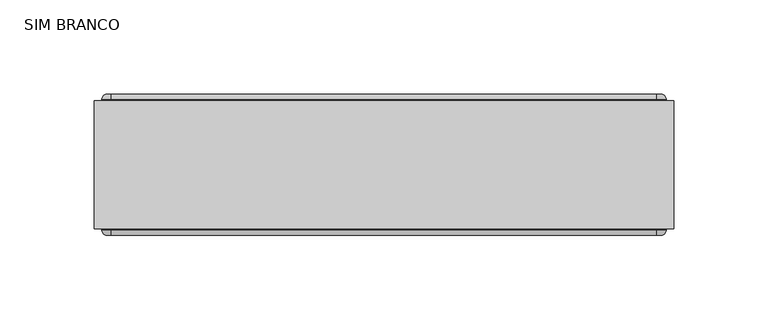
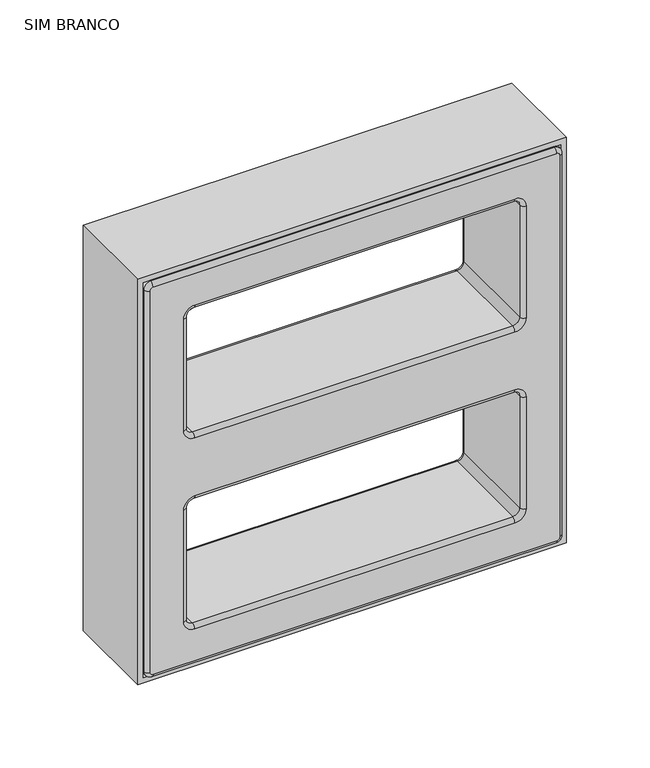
"""IFC4 building model written with IfcOpenShell, lengths in millimetres: proxy geometry, PORTOBELLO - ELEMENTO SIM BRANCO 30X30 (COBOGO) : SIM BRANCO."""

from ifc_helpers import new_model, si_unit, point, frame, origin, place, context, project, spatial, polyline, circle_curve, ellipse_curve, trimmed, outline, extrude, source, transform, mapped, element, save
from ifc_brep_helpers import plane_surface, cylinder_surface, revolved_surface, advanced_brep


def sim_branco_d7bac734(model_context):
    return source(origin(), model_context, "Body", "SolidModel", [
        advanced_brep(
        [(147.0, -37.5, 299.0), (145.0, -37.5, 301.0), (-145.0, -37.5, 301.0), (-147.0, -37.5, 299.0), (-147.0, -37.5, 9.0), (-145.0, -37.5, 7.0), (145.0, -37.5, 7.0), (147.0, -37.5, 9.0), (115.0, -37.5, 277.0), (123.0, -37.5, 269.0), (123.0, -37.5, 184.0), (115.0, -37.5, 176.0), (-115.0, -37.5, 176.0), (-123.0, -37.5, 184.0), (-123.0, -37.5, 269.0), (-115.0, -37.5, 277.0), (115.0, -37.5, 132.0), (123.0, -37.5, 124.0), (123.0, -37.5, 39.0), (115.0, -37.5, 31.0), (-115.0, -37.5, 31.0), (-123.0, -37.5, 39.0), (-123.0, -37.5, 124.0), (-115.0, -37.5, 132.0), (145.0, 37.5, 301.0), (147.0, 37.5, 299.0), (147.0, 37.5, 9.0), (145.0, 37.5, 7.0), (-145.0, 37.5, 7.0), (-147.0, 37.5, 9.0), (-147.0, 37.5, 299.0), (-145.0, 37.5, 301.0), (123.0, 37.5, 269.0), (115.0, 37.5, 277.0), (-115.0, 37.5, 277.0), (-123.0, 37.5, 269.0), (-123.0, 37.5, 184.0), (-115.0, 37.5, 176.0), (115.0, 37.5, 176.0), (123.0, 37.5, 184.0), (123.0, 37.5, 124.0), (115.0, 37.5, 132.0), (-115.0, 37.5, 132.0), (-123.0, 37.5, 124.0), (-123.0, 37.5, 39.0), (-115.0, 37.5, 31.0), (115.0, 37.5, 31.0), (123.0, 37.5, 39.0), (150.0, -34.5000013, 299.0), (150.0, 34.5, 299.0), (145.0, 34.5, 304.0), (145.0, -34.5000024, 304.0), (-145.0, 34.5, 304.0), (-145.0, -34.5, 304.0), (-150.0, 34.5, 299.0), (-150.0, -34.5000025, 299.0), (-150.0, 34.5, 9.0), (-150.0, -34.5, 9.0), (-145.0, 34.5, 4.0), (-145.0, -34.5000024, 4.0), (145.0, 34.5, 4.0), (145.0, -34.5, 4.0), (150.0, 34.5, 9.0), (150.0, -34.5000024, 9.0), (-115.0, -34.5000025, 274.0), (-115.0, 34.5, 274.0), (115.0, 34.5, 274.0), (115.0, -34.5000016, 274.0), (120.0, 34.5, 269.0), (120.0, -34.5000016, 269.0), (120.0, 34.5, 184.0), (120.0, -34.5, 184.0), (115.0, 34.5, 179.0), (115.0, -34.5000016, 179.0), (-115.0, 34.5, 179.0), (-115.0, -34.5, 179.0), (-120.0, 34.5, 184.0), (-120.0, -34.5000017, 184.0), (-120.0, 34.5, 269.0), (-120.0, -34.5, 269.0), (115.0, -34.5000026, 34.0), (115.0, 34.5, 34.0), (-115.0, 34.5, 34.0), (-115.0, -34.5, 34.0), (-120.0, 34.5, 39.0), (-120.0, -34.5000016, 39.0), (-120.0, 34.5, 124.0), (-120.0, -34.5, 124.0), (-115.0, 34.5, 129.0), (-115.0, -34.5000016, 129.0), (115.0, 34.5, 129.0), (115.0, -34.5000016, 129.0), (120.0, 34.5, 124.0), (120.0, -34.5000015, 124.0), (120.0, 34.5, 39.0), (120.0, -34.5, 39.0)],
        [
            (0, 1, circle_curve(frame((145.0, -37.5, 299.0), z_axis=(0.0, -1.0, 0.0), x_axis=(1.0, 0.0, 0.0)), 2.0)),
            (1, 2),
            (2, 3, circle_curve(frame((-145.0, -37.5, 299.0), z_axis=(0.0, -1.0, 0.0), x_axis=(0.0, 0.0, 1.0)), 2.0)),
            (3, 4),
            (4, 5, circle_curve(frame((-145.0, -37.5, 9.0), z_axis=(0.0, -1.0, 0.0), x_axis=(-1.0, 0.0, 0.0)), 2.0)),
            (5, 6),
            (6, 7, circle_curve(frame((145.0, -37.5, 9.0), z_axis=(0.0, -1.0, 0.0), x_axis=(0.0, 0.0, -1.0)), 2.0)),
            (7, 0),
            (8, 9, circle_curve(frame((115.0, -37.5, 269.0), z_axis=(0.0, 1.0, 0.0), x_axis=(0.0, 0.0, 1.0)), 8.0)),
            (9, 10),
            (10, 11, circle_curve(frame((115.0, -37.5, 184.0), z_axis=(0.0, 1.0, 0.0), x_axis=(1.0, 0.0, 0.0)), 8.0)),
            (11, 12),
            (12, 13, circle_curve(frame((-115.0, -37.5, 184.0), z_axis=(0.0, 1.0, 0.0), x_axis=(0.0, 0.0, -1.0)), 8.0)),
            (13, 14),
            (14, 15, circle_curve(frame((-115.0, -37.5, 269.0), z_axis=(0.0, 1.0, 0.0), x_axis=(-1.0, 0.0, 0.0)), 8.0)),
            (15, 8),
            (16, 17, circle_curve(frame((115.0, -37.5, 124.0), z_axis=(0.0, 1.0, 0.0), x_axis=(0.0, 0.0, 1.0)), 8.0)),
            (17, 18),
            (18, 19, circle_curve(frame((115.0, -37.5, 39.0), z_axis=(0.0, 1.0, 0.0), x_axis=(1.0, 0.0, 0.0)), 8.0)),
            (19, 20),
            (20, 21, circle_curve(frame((-115.0, -37.5, 39.0), z_axis=(0.0, 1.0, 0.0), x_axis=(0.0, 0.0, -1.0)), 8.0)),
            (21, 22),
            (22, 23, circle_curve(frame((-115.0, -37.5, 124.0), z_axis=(0.0, 1.0, 0.0), x_axis=(-1.0, 0.0, 0.0)), 8.0)),
            (23, 16),
            (24, 25, circle_curve(frame((145.0, 37.5, 299.0), z_axis=(0.0, 1.0, 0.0), x_axis=(1.0, 0.0, 0.0)), 2.0)),
            (25, 26),
            (26, 27, circle_curve(frame((145.0, 37.5, 9.0), z_axis=(0.0, 1.0, 0.0), x_axis=(0.0, 0.0, -1.0)), 2.0)),
            (27, 28),
            (28, 29, circle_curve(frame((-145.0, 37.5, 9.0), z_axis=(0.0, 1.0, 0.0), x_axis=(-1.0, 0.0, 0.0)), 2.0)),
            (29, 30),
            (30, 31, circle_curve(frame((-145.0, 37.5, 299.0), z_axis=(0.0, 1.0, 0.0), x_axis=(0.0, 0.0, 1.0)), 2.0)),
            (31, 24),
            (32, 33, circle_curve(frame((115.0, 37.5, 269.0), z_axis=(0.0, -1.0, 0.0), x_axis=(0.0, 0.0, 1.0)), 8.0)),
            (33, 34),
            (34, 35, circle_curve(frame((-115.0, 37.5, 269.0), z_axis=(0.0, -1.0, 0.0), x_axis=(-1.0, 0.0, 0.0)), 8.0)),
            (35, 36),
            (36, 37, circle_curve(frame((-115.0, 37.5, 184.0), z_axis=(0.0, -1.0, 0.0), x_axis=(0.0, 0.0, -1.0)), 8.0)),
            (37, 38),
            (38, 39, circle_curve(frame((115.0, 37.5, 184.0), z_axis=(0.0, -1.0, 0.0), x_axis=(1.0, 0.0, 0.0)), 8.0)),
            (39, 32),
            (40, 41, circle_curve(frame((115.0, 37.5, 124.0), z_axis=(0.0, -1.0, 0.0), x_axis=(0.0, 0.0, 1.0)), 8.0)),
            (41, 42),
            (42, 43, circle_curve(frame((-115.0, 37.5, 124.0), z_axis=(0.0, -1.0, 0.0), x_axis=(-1.0, 0.0, 0.0)), 8.0)),
            (43, 44),
            (44, 45, circle_curve(frame((-115.0, 37.5, 39.0), z_axis=(0.0, -1.0, 0.0), x_axis=(0.0, 0.0, -1.0)), 8.0)),
            (45, 46),
            (46, 47, circle_curve(frame((115.0, 37.5, 39.0), z_axis=(0.0, -1.0, 0.0), x_axis=(1.0, 0.0, 0.0)), 8.0)),
            (47, 40),
            (48, 49),
            (49, 50, circle_curve(frame((145.0, 34.5, 299.0), z_axis=(0.0, -1.0, 0.0), x_axis=(0.0, 0.0, -1.0)), 5.0)),
            (50, 51),
            (51, 48, circle_curve(frame((145.0, -34.5, 299.0), z_axis=(0.0, 1.0, 0.0), x_axis=(0.0, 0.0, -1.0)), 5.0)),
            (50, 52),
            (52, 53),
            (53, 51),
            (52, 54, circle_curve(frame((-145.0, 34.5, 299.0), z_axis=(0.0, -1.0, 0.0), x_axis=(0.0, 0.0, -1.0)), 5.0)),
            (54, 55),
            (55, 53, circle_curve(frame((-145.0, -34.5, 299.0), z_axis=(0.0, 1.0, 0.0), x_axis=(0.0, 0.0, -1.0)), 5.0)),
            (54, 56),
            (56, 57),
            (57, 55),
            (56, 58, circle_curve(frame((-145.0, 34.5, 9.0), z_axis=(0.0, -1.0, 0.0), x_axis=(0.0, 0.0, -1.0)), 5.0)),
            (58, 59),
            (59, 57, circle_curve(frame((-145.0, -34.5, 9.0), z_axis=(0.0, 1.0, 0.0), x_axis=(0.0, 0.0, -1.0)), 5.0)),
            (58, 60),
            (60, 61),
            (61, 59),
            (60, 62, circle_curve(frame((145.0, 34.5, 9.0), z_axis=(0.0, -1.0, 0.0), x_axis=(0.0, 0.0, -1.0)), 5.0)),
            (62, 63),
            (63, 61, circle_curve(frame((145.0, -34.5, 9.0), z_axis=(0.0, 1.0, 0.0), x_axis=(0.0, 0.0, -1.0)), 5.0)),
            (48, 63),
            (62, 49),
            (64, 65),
            (65, 66),
            (66, 67),
            (67, 64),
            (66, 68, circle_curve(frame((115.0, 34.5, 269.0), z_axis=(0.0, 1.0, 0.0), x_axis=(0.0, 0.0, -1.0)), 5.0)),
            (68, 69),
            (69, 67, circle_curve(frame((115.0, -34.5, 269.0), z_axis=(0.0, -1.0, 0.0), x_axis=(0.0, 0.0, -1.0)), 5.0)),
            (68, 70),
            (70, 71),
            (71, 69),
            (70, 72, circle_curve(frame((115.0, 34.5, 184.0), z_axis=(0.0, 1.0, 0.0), x_axis=(0.0, 0.0, -1.0)), 5.0)),
            (72, 73),
            (73, 71, circle_curve(frame((115.0, -34.5, 184.0), z_axis=(0.0, -1.0, 0.0), x_axis=(0.0, 0.0, -1.0)), 5.0)),
            (72, 74),
            (74, 75),
            (75, 73),
            (74, 76, circle_curve(frame((-115.0, 34.5, 184.0), z_axis=(0.0, 1.0, 0.0), x_axis=(0.0, 0.0, -1.0)), 5.0)),
            (76, 77),
            (77, 75, circle_curve(frame((-115.0, -34.5, 184.0), z_axis=(0.0, -1.0, 0.0), x_axis=(0.0, 0.0, -1.0)), 5.0)),
            (76, 78),
            (78, 79),
            (79, 77),
            (64, 79, circle_curve(frame((-115.0, -34.5, 269.0), z_axis=(0.0, -1.0, 0.0), x_axis=(0.0, 0.0, -1.0)), 5.0)),
            (78, 65, circle_curve(frame((-115.0, 34.5, 269.0), z_axis=(0.0, 1.0, 0.0), x_axis=(0.0, 0.0, -1.0)), 5.0)),
            (80, 81),
            (81, 82),
            (82, 83),
            (83, 80),
            (82, 84, circle_curve(frame((-115.0, 34.5, 39.0), z_axis=(0.0, 1.0, 0.0), x_axis=(0.0, 0.0, -1.0)), 5.0)),
            (84, 85),
            (85, 83, circle_curve(frame((-115.0, -34.5, 39.0), z_axis=(0.0, -1.0, 0.0), x_axis=(0.0, 0.0, -1.0)), 5.0)),
            (84, 86),
            (86, 87),
            (87, 85),
            (86, 88, circle_curve(frame((-115.0, 34.5, 124.0), z_axis=(0.0, 1.0, 0.0), x_axis=(0.0, 0.0, -1.0)), 5.0)),
            (88, 89),
            (89, 87, circle_curve(frame((-115.0, -34.5, 124.0), z_axis=(0.0, -1.0, 0.0), x_axis=(0.0, 0.0, -1.0)), 5.0)),
            (88, 90),
            (90, 91),
            (91, 89),
            (90, 92, circle_curve(frame((115.0, 34.5, 124.0), z_axis=(0.0, 1.0, 0.0), x_axis=(0.0, 0.0, -1.0)), 5.0)),
            (92, 93),
            (93, 91, circle_curve(frame((115.0, -34.5, 124.0), z_axis=(0.0, -1.0, 0.0), x_axis=(0.0, 0.0, -1.0)), 5.0)),
            (92, 94),
            (94, 95),
            (95, 93),
            (80, 95, circle_curve(frame((115.0, -34.5, 39.0), z_axis=(0.0, -1.0, 0.0), x_axis=(0.0, 0.0, -1.0)), 5.0)),
            (94, 81, circle_curve(frame((115.0, 34.5, 39.0), z_axis=(0.0, 1.0, 0.0), x_axis=(0.0, 0.0, -1.0)), 5.0)),
            (51, 1, circle_curve(frame((145.0, -34.5, 301.0), z_axis=(1.0, 0.0, 0.0), x_axis=(0.0, -1.0, 0.0)), 3.0)),
            (0, 48, circle_curve(frame((147.0, -34.5, 299.0), z_axis=(0.0, 0.0, 1.0), x_axis=(0.0, -1.0, 0.0)), 3.0)),
            (53, 2, circle_curve(frame((-145.0, -34.5, 301.0), z_axis=(1.0, 0.0, 0.0), x_axis=(0.0, -1.0, 0.0)), 3.0)),
            (55, 3, circle_curve(frame((-147.0, -34.5, 299.0), z_axis=(0.0, 0.0, 1.0), x_axis=(0.0, -1.0, 0.0)), 3.0)),
            (57, 4, circle_curve(frame((-147.0, -34.5, 9.0), z_axis=(0.0, 0.0, 1.0), x_axis=(0.0, -1.0, 0.0)), 3.0)),
            (59, 5, circle_curve(frame((-145.0, -34.5, 7.0), z_axis=(-1.0, 0.0, 0.0), x_axis=(0.0, -1.0, 0.0)), 3.0)),
            (61, 6, circle_curve(frame((145.0, -34.5, 7.0), z_axis=(-1.0, 0.0, 0.0), x_axis=(0.0, -1.0, 0.0)), 3.0)),
            (63, 7, circle_curve(frame((147.0, -34.5, 9.0), z_axis=(0.0, 0.0, -1.0), x_axis=(0.0, -1.0, 0.0)), 3.0)),
            (24, 50, circle_curve(frame((145.0, 34.5, 301.0), z_axis=(1.0, 0.0, 0.0), x_axis=(0.0, -1.0, 0.0)), 3.0)),
            (49, 25, circle_curve(frame((147.0, 34.5, 299.0), z_axis=(0.0, 0.0, 1.0), x_axis=(0.0, -1.0, 0.0)), 3.0)),
            (31, 52, circle_curve(frame((-145.0, 34.5, 301.0), z_axis=(1.0, 0.0, 0.0), x_axis=(0.0, -1.0, 0.0)), 3.0)),
            (30, 54, circle_curve(frame((-147.0, 34.5, 299.0), z_axis=(0.0, 0.0, 1.0), x_axis=(0.0, -1.0, 0.0)), 3.0)),
            (29, 56, circle_curve(frame((-147.0, 34.5, 9.0), z_axis=(0.0, 0.0, 1.0), x_axis=(0.0, -1.0, 0.0)), 3.0)),
            (28, 58, circle_curve(frame((-145.0, 34.5, 7.0), z_axis=(-1.0, 0.0, 0.0), x_axis=(0.0, -1.0, 0.0)), 3.0)),
            (27, 60, circle_curve(frame((145.0, 34.5, 7.0), z_axis=(-1.0, 0.0, 0.0), x_axis=(0.0, -1.0, 0.0)), 3.0)),
            (26, 62, circle_curve(frame((147.0, 34.5, 9.0), z_axis=(0.0, 0.0, -1.0), x_axis=(0.0, -1.0, 0.0)), 3.0)),
            (69, 9, circle_curve(frame((123.0, -34.5, 269.0), z_axis=(0.0, 0.0, 1.0), x_axis=(0.0, -1.0, 0.0)), 3.0)),
            (8, 67, circle_curve(frame((115.0, -34.5, 277.0), z_axis=(1.0, 0.0, 0.0), x_axis=(0.0, -1.0, 0.0)), 3.0)),
            (71, 10, circle_curve(frame((123.0, -34.5, 184.0), z_axis=(0.0, 0.0, 1.0), x_axis=(0.0, -1.0, 0.0)), 3.0)),
            (73, 11, circle_curve(frame((115.0, -34.5, 176.0), z_axis=(1.0, 0.0, 0.0), x_axis=(0.0, -1.0, 0.0)), 3.0)),
            (75, 12, circle_curve(frame((-115.0, -34.5, 176.0), z_axis=(1.0, 0.0, 0.0), x_axis=(0.0, -1.0, 0.0)), 3.0)),
            (77, 13, circle_curve(frame((-123.0, -34.5, 184.0), z_axis=(0.0, 0.0, -1.0), x_axis=(0.0, -1.0, 0.0)), 3.0)),
            (79, 14, circle_curve(frame((-123.0, -34.5, 269.0), z_axis=(0.0, 0.0, -1.0), x_axis=(0.0, -1.0, 0.0)), 3.0)),
            (64, 15, circle_curve(frame((-115.0, -34.5, 277.0), z_axis=(-1.0, 0.0, 0.0), x_axis=(0.0, -1.0, 0.0)), 3.0)),
            (32, 68, circle_curve(frame((123.0, 34.5, 269.0), z_axis=(0.0, 0.0, 1.0), x_axis=(0.0, -1.0, 0.0)), 3.0)),
            (66, 33, circle_curve(frame((115.0, 34.5, 277.0), z_axis=(1.0, 0.0, 0.0), x_axis=(0.0, -1.0, 0.0)), 3.0)),
            (39, 70, circle_curve(frame((123.0, 34.5, 184.0), z_axis=(0.0, 0.0, 1.0), x_axis=(0.0, -1.0, 0.0)), 3.0)),
            (38, 72, circle_curve(frame((115.0, 34.5, 176.0), z_axis=(1.0, 0.0, 0.0), x_axis=(0.0, -1.0, 0.0)), 3.0)),
            (37, 74, circle_curve(frame((-115.0, 34.5, 176.0), z_axis=(1.0, 0.0, 0.0), x_axis=(0.0, -1.0, 0.0)), 3.0)),
            (36, 76, circle_curve(frame((-123.0, 34.5, 184.0), z_axis=(0.0, 0.0, -1.0), x_axis=(0.0, -1.0, 0.0)), 3.0)),
            (35, 78, circle_curve(frame((-123.0, 34.5, 269.0), z_axis=(0.0, 0.0, -1.0), x_axis=(0.0, -1.0, 0.0)), 3.0)),
            (34, 65, circle_curve(frame((-115.0, 34.5, 277.0), z_axis=(-1.0, 0.0, 0.0), x_axis=(0.0, -1.0, 0.0)), 3.0)),
            (93, 17, circle_curve(frame((123.0, -34.5, 124.0), z_axis=(0.0, 0.0, 1.0), x_axis=(0.0, -1.0, 0.0)), 3.0)),
            (16, 91, circle_curve(frame((115.0, -34.5, 132.0), z_axis=(1.0, 0.0, 0.0), x_axis=(0.0, -1.0, 0.0)), 3.0)),
            (40, 92, circle_curve(frame((123.0, 34.5, 124.0), z_axis=(0.0, 0.0, 1.0), x_axis=(0.0, -1.0, 0.0)), 3.0)),
            (90, 41, circle_curve(frame((115.0, 34.5, 132.0), z_axis=(1.0, 0.0, 0.0), x_axis=(0.0, -1.0, 0.0)), 3.0)),
            (95, 18, circle_curve(frame((123.0, -34.5, 39.0), z_axis=(0.0, 0.0, 1.0), x_axis=(0.0, -1.0, 0.0)), 3.0)),
            (47, 94, circle_curve(frame((123.0, 34.5, 39.0), z_axis=(0.0, 0.0, 1.0), x_axis=(0.0, -1.0, 0.0)), 3.0)),
            (80, 19, circle_curve(frame((115.0, -34.5, 31.0), z_axis=(1.0, 0.0, 0.0), x_axis=(0.0, -1.0, 0.0)), 3.0)),
            (46, 81, circle_curve(frame((115.0, 34.5, 31.0), z_axis=(1.0, 0.0, 0.0), x_axis=(0.0, -1.0, 0.0)), 3.0)),
            (83, 20, circle_curve(frame((-115.0, -34.5, 31.0), z_axis=(1.0, 0.0, 0.0), x_axis=(0.0, -1.0, 0.0)), 3.0)),
            (45, 82, circle_curve(frame((-115.0, 34.5, 31.0), z_axis=(1.0, 0.0, 0.0), x_axis=(0.0, -1.0, 0.0)), 3.0)),
            (85, 21, circle_curve(frame((-123.0, -34.5, 39.0), z_axis=(0.0, 0.0, -1.0), x_axis=(0.0, -1.0, 0.0)), 3.0)),
            (44, 84, circle_curve(frame((-123.0, 34.5, 39.0), z_axis=(0.0, 0.0, -1.0), x_axis=(0.0, -1.0, 0.0)), 3.0)),
            (87, 22, circle_curve(frame((-123.0, -34.5, 124.0), z_axis=(0.0, 0.0, -1.0), x_axis=(0.0, -1.0, 0.0)), 3.0)),
            (43, 86, circle_curve(frame((-123.0, 34.5, 124.0), z_axis=(0.0, 0.0, -1.0), x_axis=(0.0, -1.0, 0.0)), 3.0)),
            (89, 23, circle_curve(frame((-115.0, -34.5, 132.0), z_axis=(-1.0, 0.0, 0.0), x_axis=(0.0, -1.0, 0.0)), 3.0)),
            (42, 88, circle_curve(frame((-115.0, 34.5, 132.0), z_axis=(-1.0, 0.0, 0.0), x_axis=(0.0, -1.0, 0.0)), 3.0)),
        ],
        [
            plane_surface(frame((145.0, -37.5, 294.0), z_axis=(0.0, -1.0, 0.0), x_axis=(1.0, 0.0, 0.0))),
            plane_surface(frame((145.0, 37.5, 294.0), z_axis=(0.0, 1.0, 0.0), x_axis=(-1.0, 0.0, 0.0))),
            cylinder_surface(frame((145.0, 37.5, 299.0), z_axis=(0.0, -1.0, 0.0), x_axis=(0.0, 0.0, -1.0)), 5.0),
            plane_surface(frame((145.0, -37.5, 304.0), z_axis=(0.0, 0.0, 1.0), x_axis=(0.0, 1.0, 0.0))),
            cylinder_surface(frame((-145.0, 37.5, 299.0), z_axis=(0.0, -1.0, 0.0), x_axis=(0.0, 0.0, -1.0)), 5.0),
            plane_surface(frame((-150.0, -37.5, 299.0), z_axis=(-1.0, 0.0, 0.0), x_axis=(0.0, 1.0, 0.0))),
            cylinder_surface(frame((-145.0, 37.5, 9.0), z_axis=(0.0, -1.0, 0.0), x_axis=(0.0, 0.0, -1.0)), 5.0),
            plane_surface(frame((-145.0, -37.5, 4.0), z_axis=(0.0, 0.0, -1.0), x_axis=(0.0, 1.0, 0.0))),
            cylinder_surface(frame((145.0, 37.5, 9.0), z_axis=(0.0, -1.0, 0.0), x_axis=(0.0, 0.0, -1.0)), 5.0),
            plane_surface(frame((150.0, -37.5, 9.0), z_axis=(1.0, 0.0, 0.0), x_axis=(0.0, 1.0, 0.0))),
            plane_surface(frame((-115.0, -37.5, 274.0), z_axis=(0.0, 0.0, -1.0), x_axis=(0.0, 1.0, 0.0))),
            revolved_surface(polyline([(115.0, 34.5, 264.0), (115.0, -34.5000016, 264.0)]), (115.0, 0.0, 269.0), (0.0, 1.0, 0.0)),
            plane_surface(frame((120.0, -37.5, 269.0), z_axis=(-1.0, 0.0, 0.0), x_axis=(0.0, 1.0, 0.0))),
            revolved_surface(polyline([(115.0, 34.5, 179.0), (115.0, -34.5000016, 179.0)]), (115.0, 0.0, 184.0), (0.0, 1.0, 0.0)),
            plane_surface(frame((115.0, -37.5, 179.0), z_axis=(0.0, 0.0, 1.0), x_axis=(0.0, 1.0, 0.0))),
            revolved_surface(polyline([(-115.0, 34.5, 179.0), (-115.0, -34.5000017, 179.0)]), (-115.0, 0.0, 184.0), (0.0, 1.0, 0.0)),
            plane_surface(frame((-120.0, -37.5, 184.0), z_axis=(1.0, 0.0, 0.0), x_axis=(0.0, 1.0, 0.0))),
            revolved_surface(polyline([(-115.0, 34.5, 264.0), (-115.0, -34.5000025, 264.0)]), (-115.0, 0.0, 269.0), (0.0, 1.0, 0.0)),
            plane_surface(frame((115.0, -37.5, 34.0), z_axis=(0.0, 0.0, 1.0), x_axis=(0.0, 1.0, 0.0))),
            revolved_surface(polyline([(-115.0, 34.5, 34.0), (-115.0, -34.5000016, 34.0)]), (-115.0, 0.0, 39.0), (0.0, 1.0, 0.0)),
            plane_surface(frame((-120.0, -37.5, 39.0), z_axis=(1.0, 0.0, 0.0), x_axis=(0.0, 1.0, 0.0))),
            revolved_surface(polyline([(-115.0, 34.5, 119.0), (-115.0, -34.5000016, 119.0)]), (-115.0, 0.0, 124.0), (0.0, 1.0, 0.0)),
            plane_surface(frame((-115.0, -37.5, 129.0), z_axis=(0.0, 0.0, -1.0), x_axis=(0.0, 1.0, 0.0))),
            revolved_surface(polyline([(115.0, 34.5, 119.0), (115.0, -34.5000016, 119.0)]), (115.0, 0.0, 124.0), (0.0, 1.0, 0.0)),
            plane_surface(frame((120.0, -37.5, 124.0), z_axis=(-1.0, 0.0, 0.0), x_axis=(0.0, 1.0, 0.0))),
            revolved_surface(polyline([(115.0, 34.5, 34.0), (115.0, -34.5000026, 34.0)]), (115.0, 0.0, 39.0), (0.0, 1.0, 0.0)),
            revolved_surface(trimmed(ellipse_curve(frame((147.0, -34.5, 299.0), z_axis=(0.0, 0.0, -1.0), x_axis=(0.0, -1.0, 0.0)), 3.0, 3.0), [point((150.0, -34.5, 299.0))], [point((147.0, -37.5, 299.0))], True, "CARTESIAN"), (145.0, -37.5, 299.0), (0.0, -1.0, 0.0)),
            cylinder_surface(frame((145.0, -34.5, 301.0), z_axis=(-1.0, 0.0, 0.0), x_axis=(0.0, -1.0, 0.0)), 3.0),
            revolved_surface(trimmed(ellipse_curve(frame((-145.0, -34.5, 301.0), z_axis=(1.0, 0.0, 0.0), x_axis=(0.0, -1.0, 0.0)), 3.0, 3.0), [point((-145.0, -34.5, 304.0))], [point((-145.0, -37.5, 301.0))], True, "CARTESIAN"), (-145.0, -37.5, 299.0), (0.0, -1.0, 0.0)),
            cylinder_surface(frame((-147.0, -34.5, 299.0), z_axis=(0.0, 0.0, -1.0), x_axis=(0.0, -1.0, 0.0)), 3.0),
            revolved_surface(trimmed(ellipse_curve(frame((-147.0, -34.5, 9.0), z_axis=(0.0, 0.0, 1.0), x_axis=(0.0, -1.0, 0.0)), 3.0, 3.0), [point((-150.0, -34.5, 9.0))], [point((-147.0, -37.5, 9.0))], True, "CARTESIAN"), (-145.0, -37.5, 9.0), (0.0, -1.0, 0.0)),
            cylinder_surface(frame((-145.0, -34.5, 7.0), z_axis=(1.0, 0.0, 0.0), x_axis=(0.0, -1.0, 0.0)), 3.0),
            revolved_surface(trimmed(ellipse_curve(frame((145.0, -34.5, 7.0), z_axis=(-1.0, 0.0, 0.0), x_axis=(0.0, -1.0, 0.0)), 3.0, 3.0), [point((145.0, -34.5, 4.0))], [point((145.0, -37.5, 7.0))], True, "CARTESIAN"), (145.0, -37.5, 9.0), (0.0, -1.0, 0.0)),
            cylinder_surface(frame((147.0, -34.5, 9.0), z_axis=(0.0, 0.0, 1.0), x_axis=(0.0, -1.0, 0.0)), 3.0),
            revolved_surface(trimmed(ellipse_curve(frame((147.0, 34.5, 299.0), z_axis=(0.0, 0.0, -1.0), x_axis=(0.0, -1.0, 0.0)), 3.0, 3.0), [point((147.0, 37.5, 299.0))], [point((150.0, 34.5, 299.0))], True, "CARTESIAN"), (145.0, -37.5, 299.0), (0.0, -1.0, 0.0)),
            cylinder_surface(frame((145.0, 34.5, 301.0), z_axis=(-1.0, 0.0, 0.0), x_axis=(0.0, -1.0, 0.0)), 3.0),
            revolved_surface(trimmed(ellipse_curve(frame((-145.0, 34.5, 301.0), z_axis=(1.0, 0.0, 0.0), x_axis=(0.0, -1.0, 0.0)), 3.0, 3.0), [point((-145.0, 37.5, 301.0))], [point((-145.0, 34.5, 304.0))], True, "CARTESIAN"), (-145.0, -37.5, 299.0), (0.0, -1.0, 0.0)),
            cylinder_surface(frame((-147.0, 34.5, 299.0), z_axis=(0.0, 0.0, -1.0), x_axis=(0.0, -1.0, 0.0)), 3.0),
            revolved_surface(trimmed(ellipse_curve(frame((-147.0, 34.5, 9.0), z_axis=(0.0, 0.0, 1.0), x_axis=(0.0, -1.0, 0.0)), 3.0, 3.0), [point((-147.0, 37.5, 9.0))], [point((-150.0, 34.5, 9.0))], True, "CARTESIAN"), (-145.0, -37.5, 9.0), (0.0, -1.0, 0.0)),
            cylinder_surface(frame((-145.0, 34.5, 7.0), z_axis=(1.0, 0.0, 0.0), x_axis=(0.0, -1.0, 0.0)), 3.0),
            revolved_surface(trimmed(ellipse_curve(frame((145.0, 34.5, 7.0), z_axis=(-1.0, 0.0, 0.0), x_axis=(0.0, -1.0, 0.0)), 3.0, 3.0), [point((145.0, 37.5, 7.0))], [point((145.0, 34.5, 4.0))], True, "CARTESIAN"), (145.0, -37.5, 9.0), (0.0, -1.0, 0.0)),
            cylinder_surface(frame((147.0, 34.5, 9.0), z_axis=(0.0, 0.0, 1.0), x_axis=(0.0, -1.0, 0.0)), 3.0),
            revolved_surface(trimmed(ellipse_curve(frame((115.0, -34.5, 277.0), z_axis=(-1.0, 0.0, 0.0), x_axis=(0.0, -1.0, 0.0)), 3.0, 3.0), [point((115.0, -34.5, 274.0))], [point((115.0, -37.5, 277.0))], True, "CARTESIAN"), (115.0, -37.5, 269.0), (0.0, 1.0, 0.0)),
            cylinder_surface(frame((123.0, -34.5, 269.0), z_axis=(0.0, 0.0, -1.0), x_axis=(0.0, -1.0, 0.0)), 3.0),
            revolved_surface(trimmed(ellipse_curve(frame((123.0, -34.5, 184.0), z_axis=(0.0, 0.0, 1.0), x_axis=(0.0, -1.0, 0.0)), 3.0, 3.0), [point((120.0, -34.5, 184.0))], [point((123.0, -37.5, 184.0))], True, "CARTESIAN"), (115.0, -37.5, 184.0), (0.0, 1.0, 0.0)),
            cylinder_surface(frame((115.0, -34.5, 176.0), z_axis=(-1.0, 0.0, 0.0), x_axis=(0.0, -1.0, 0.0)), 3.0),
            revolved_surface(trimmed(ellipse_curve(frame((-115.0, -34.5, 176.0), z_axis=(1.0, 0.0, 0.0), x_axis=(0.0, -1.0, 0.0)), 3.0, 3.0), [point((-115.0, -34.5, 179.0))], [point((-115.0, -37.5, 176.0))], True, "CARTESIAN"), (-115.0, -37.5, 184.0), (0.0, 1.0, 0.0)),
            cylinder_surface(frame((-123.0, -34.5, 184.0), z_axis=(0.0, 0.0, 1.0), x_axis=(0.0, -1.0, 0.0)), 3.0),
            revolved_surface(trimmed(ellipse_curve(frame((-123.0, -34.5, 269.0), z_axis=(0.0, 0.0, -1.0), x_axis=(0.0, -1.0, 0.0)), 3.0, 3.0), [point((-120.0, -34.5, 269.0))], [point((-123.0, -37.5, 269.0))], True, "CARTESIAN"), (-115.0, -37.5, 269.0), (0.0, 1.0, 0.0)),
            cylinder_surface(frame((-115.0, -34.5, 277.0), z_axis=(1.0, 0.0, 0.0), x_axis=(0.0, -1.0, 0.0)), 3.0),
            revolved_surface(trimmed(ellipse_curve(frame((115.0, 34.5, 277.0), z_axis=(-1.0, 0.0, 0.0), x_axis=(0.0, -1.0, 0.0)), 3.0, 3.0), [point((115.0, 37.5, 277.0))], [point((115.0, 34.5, 274.0))], True, "CARTESIAN"), (115.0, -37.5, 269.0), (0.0, 1.0, 0.0)),
            cylinder_surface(frame((123.0, 34.5, 269.0), z_axis=(0.0, 0.0, -1.0), x_axis=(0.0, -1.0, 0.0)), 3.0),
            revolved_surface(trimmed(ellipse_curve(frame((123.0, 34.5, 184.0), z_axis=(0.0, 0.0, 1.0), x_axis=(0.0, -1.0, 0.0)), 3.0, 3.0), [point((123.0, 37.5, 184.0))], [point((120.0, 34.5, 184.0))], True, "CARTESIAN"), (115.0, -37.5, 184.0), (0.0, 1.0, 0.0)),
            cylinder_surface(frame((115.0, 34.5, 176.0), z_axis=(-1.0, 0.0, 0.0), x_axis=(0.0, -1.0, 0.0)), 3.0),
            revolved_surface(trimmed(ellipse_curve(frame((-115.0, 34.5, 176.0), z_axis=(1.0, 0.0, 0.0), x_axis=(0.0, -1.0, 0.0)), 3.0, 3.0), [point((-115.0, 37.5, 176.0))], [point((-115.0, 34.5, 179.0))], True, "CARTESIAN"), (-115.0, -37.5, 184.0), (0.0, 1.0, 0.0)),
            cylinder_surface(frame((-123.0, 34.5, 184.0), z_axis=(0.0, 0.0, 1.0), x_axis=(0.0, -1.0, 0.0)), 3.0),
            revolved_surface(trimmed(ellipse_curve(frame((-123.0, 34.5, 269.0), z_axis=(0.0, 0.0, -1.0), x_axis=(0.0, -1.0, 0.0)), 3.0, 3.0), [point((-123.0, 37.5, 269.0))], [point((-120.0, 34.5, 269.0))], True, "CARTESIAN"), (-115.0, -37.5, 269.0), (0.0, 1.0, 0.0)),
            cylinder_surface(frame((-115.0, 34.5, 277.0), z_axis=(1.0, 0.0, 0.0), x_axis=(0.0, -1.0, 0.0)), 3.0),
            revolved_surface(trimmed(ellipse_curve(frame((115.0, -34.5, 132.0), z_axis=(-1.0, 0.0, 0.0), x_axis=(0.0, -1.0, 0.0)), 3.0, 3.0), [point((115.0, -34.5, 129.0))], [point((115.0, -37.5, 132.0))], True, "CARTESIAN"), (115.0, -37.5, 124.0), (0.0, 1.0, 0.0)),
            revolved_surface(trimmed(ellipse_curve(frame((115.0, 34.5, 132.0), z_axis=(-1.0, 0.0, 0.0), x_axis=(0.0, -1.0, 0.0)), 3.0, 3.0), [point((115.0, 37.5, 132.0))], [point((115.0, 34.5, 129.0))], True, "CARTESIAN"), (115.0, -37.5, 124.0), (0.0, 1.0, 0.0)),
            cylinder_surface(frame((123.0, -34.5, 124.0), z_axis=(0.0, 0.0, -1.0), x_axis=(0.0, -1.0, 0.0)), 3.0),
            cylinder_surface(frame((123.0, 34.5, 124.0), z_axis=(0.0, 0.0, -1.0), x_axis=(0.0, -1.0, 0.0)), 3.0),
            revolved_surface(trimmed(ellipse_curve(frame((123.0, -34.5, 39.0), z_axis=(0.0, 0.0, 1.0), x_axis=(0.0, -1.0, 0.0)), 3.0, 3.0), [point((120.0, -34.5, 39.0))], [point((123.0, -37.5, 39.0))], True, "CARTESIAN"), (115.0, -37.5, 39.0), (0.0, 1.0, 0.0)),
            revolved_surface(trimmed(ellipse_curve(frame((123.0, 34.5, 39.0), z_axis=(0.0, 0.0, 1.0), x_axis=(0.0, -1.0, 0.0)), 3.0, 3.0), [point((123.0, 37.5, 39.0))], [point((120.0, 34.5, 39.0))], True, "CARTESIAN"), (115.0, -37.5, 39.0), (0.0, 1.0, 0.0)),
            cylinder_surface(frame((115.0, -34.5, 31.0), z_axis=(-1.0, 0.0, 0.0), x_axis=(0.0, -1.0, 0.0)), 3.0),
            cylinder_surface(frame((115.0, 34.5, 31.0), z_axis=(-1.0, 0.0, 0.0), x_axis=(0.0, -1.0, 0.0)), 3.0),
            revolved_surface(trimmed(ellipse_curve(frame((-115.0, -34.5, 31.0), z_axis=(1.0, 0.0, 0.0), x_axis=(0.0, -1.0, 0.0)), 3.0, 3.0), [point((-115.0, -34.5, 34.0))], [point((-115.0, -37.5, 31.0))], True, "CARTESIAN"), (-115.0, -37.5, 39.0), (0.0, 1.0, 0.0)),
            revolved_surface(trimmed(ellipse_curve(frame((-115.0, 34.5, 31.0), z_axis=(1.0, 0.0, 0.0), x_axis=(0.0, -1.0, 0.0)), 3.0, 3.0), [point((-115.0, 37.5, 31.0))], [point((-115.0, 34.5, 34.0))], True, "CARTESIAN"), (-115.0, -37.5, 39.0), (0.0, 1.0, 0.0)),
            cylinder_surface(frame((-123.0, -34.5, 39.0), z_axis=(0.0, 0.0, 1.0), x_axis=(0.0, -1.0, 0.0)), 3.0),
            cylinder_surface(frame((-123.0, 34.5, 39.0), z_axis=(0.0, 0.0, 1.0), x_axis=(0.0, -1.0, 0.0)), 3.0),
            revolved_surface(trimmed(ellipse_curve(frame((-123.0, -34.5, 124.0), z_axis=(0.0, 0.0, -1.0), x_axis=(0.0, -1.0, 0.0)), 3.0, 3.0), [point((-120.0, -34.5, 124.0))], [point((-123.0, -37.5, 124.0))], True, "CARTESIAN"), (-115.0, -37.5, 124.0), (0.0, 1.0, 0.0)),
            revolved_surface(trimmed(ellipse_curve(frame((-123.0, 34.5, 124.0), z_axis=(0.0, 0.0, -1.0), x_axis=(0.0, -1.0, 0.0)), 3.0, 3.0), [point((-123.0, 37.5, 124.0))], [point((-120.0, 34.5, 124.0))], True, "CARTESIAN"), (-115.0, -37.5, 124.0), (0.0, 1.0, 0.0)),
            cylinder_surface(frame((-115.0, -34.5, 132.0), z_axis=(1.0, 0.0, 0.0), x_axis=(0.0, -1.0, 0.0)), 3.0),
            cylinder_surface(frame((-115.0, 34.5, 132.0), z_axis=(1.0, 0.0, 0.0), x_axis=(0.0, -1.0, 0.0)), 3.0),
        ],
        [
            (0, [[1, 2, 3, 4, 5, 6, 7, 8], [9, 10, 11, 12, 13, 14, 15, 16], [17, 18, 19, 20, 21, 22, 23, 24]]),
            (1, [[25, 26, 27, 28, 29, 30, 31, 32], [33, 34, 35, 36, 37, 38, 39, 40], [41, 42, 43, 44, 45, 46, 47, 48]]),
            (2, [[49, 50, 51, 52]]),
            (3, [[-51, 53, 54, 55]]),
            (4, [[-54, 56, 57, 58]]),
            (5, [[-57, 59, 60, 61]]),
            (6, [[-60, 62, 63, 64]]),
            (7, [[-63, 65, 66, 67]]),
            (8, [[-66, 68, 69, 70]]),
            (9, [[-49, 71, -69, 72]]),
            (10, [[73, 74, 75, 76]]),
            (11, [[-75, 77, 78, 79]]),
            (12, [[-78, 80, 81, 82]]),
            (13, [[-81, 83, 84, 85]]),
            (14, [[-84, 86, 87, 88]]),
            (15, [[-87, 89, 90, 91]]),
            (16, [[-90, 92, 93, 94]]),
            (17, [[-73, 95, -93, 96]]),
            (18, [[97, 98, 99, 100]]),
            (19, [[-99, 101, 102, 103]]),
            (20, [[-102, 104, 105, 106]]),
            (21, [[-105, 107, 108, 109]]),
            (22, [[-108, 110, 111, 112]]),
            (23, [[-111, 113, 114, 115]]),
            (24, [[-114, 116, 117, 118]]),
            (25, [[-97, 119, -117, 120]]),
            (26, [[121, -1, 122, -52]]),
            (27, [[-121, -55, 123, -2]]),
            (28, [[-123, -58, 124, -3]]),
            (29, [[-124, -61, 125, -4]]),
            (30, [[-125, -64, 126, -5]]),
            (31, [[-126, -67, 127, -6]]),
            (32, [[-127, -70, 128, -7]]),
            (33, [[-122, -8, -128, -71]]),
            (34, [[129, -50, 130, -25]]),
            (35, [[-129, -32, 131, -53]]),
            (36, [[-131, -31, 132, -56]]),
            (37, [[-132, -30, 133, -59]]),
            (38, [[-133, -29, 134, -62]]),
            (39, [[-134, -28, 135, -65]]),
            (40, [[-135, -27, 136, -68]]),
            (41, [[-130, -72, -136, -26]]),
            (42, [[137, -9, 138, -79]]),
            (43, [[-137, -82, 139, -10]]),
            (44, [[-139, -85, 140, -11]]),
            (45, [[-140, -88, 141, -12]]),
            (46, [[-141, -91, 142, -13]]),
            (47, [[-142, -94, 143, -14]]),
            (48, [[-143, -95, 144, -15]]),
            (49, [[-138, -16, -144, -76]]),
            (50, [[145, -77, 146, -33]]),
            (51, [[-145, -40, 147, -80]]),
            (52, [[-147, -39, 148, -83]]),
            (53, [[-148, -38, 149, -86]]),
            (54, [[-149, -37, 150, -89]]),
            (55, [[-150, -36, 151, -92]]),
            (56, [[-151, -35, 152, -96]]),
            (57, [[-146, -74, -152, -34]]),
            (58, [[153, -17, 154, -115]]),
            (59, [[155, -113, 156, -41]]),
            (60, [[-153, -118, 157, -18]]),
            (61, [[-155, -48, 158, -116]]),
            (62, [[-157, -119, 159, -19]]),
            (63, [[-158, -47, 160, -120]]),
            (64, [[-159, -100, 161, -20]]),
            (65, [[-160, -46, 162, -98]]),
            (66, [[-161, -103, 163, -21]]),
            (67, [[-162, -45, 164, -101]]),
            (68, [[-163, -106, 165, -22]]),
            (69, [[-164, -44, 166, -104]]),
            (70, [[-165, -109, 167, -23]]),
            (71, [[-166, -43, 168, -107]]),
            (72, [[-154, -24, -167, -112]]),
            (73, [[-156, -110, -168, -42]]),
        ],
    ),
        extrude(outline(polyline([(308.0, -154.0), (0.0, -154.0), (0.0, 154.0), (308.0, 154.0), (308.0, -154.0)]), holes=[polyline([(4.0, -150.0), (304.0, -150.0), (304.0, 150.0), (4.0, 150.0), (4.0, -150.0)])]), frame((0.0, -34.0, 0.0), z_axis=(0.0, 1.0, 0.0), x_axis=(0.0, 0.0, 1.0)), (0.0, 0.0, 1.0), 68.0),
    ])


if __name__ == "__main__":
    model = new_model("IFC4")
    model_context = context("Model", 3, world=origin())
    ifc_project = project(units=[si_unit("LENGTHUNIT", "METRE", prefix="MILLI")], contexts=[model_context])
    site = spatial("IfcSite", under=ifc_project)
    building = spatial("IfcBuilding", under=site)
    placement = place(None, origin())
    sim_branco_shape = sim_branco_d7bac734(model_context)
    element("IfcBuildingElementProxy", 1, Name="PORTOBELLO - ELEMENTO SIM BRANCO 30X30 (COBOGO) : SIM BRANCO", ObjectType="PORTOBELLO - ELEMENTO SIM BRANCO 30X30 (COBOGO) : SIM BRANCO", at=placement, inside=building, context=model_context, shape_type="MappedRepresentation", body=[
        mapped(sim_branco_shape, transform((0.0, 0.0, 0.0), x_axis=(1.0, 0.0, 0.0), y_axis=(0.0, 1.0, 0.0), z_axis=(0.0, 0.0, 1.0))),
    ])
    save(model, "model.ifc")
